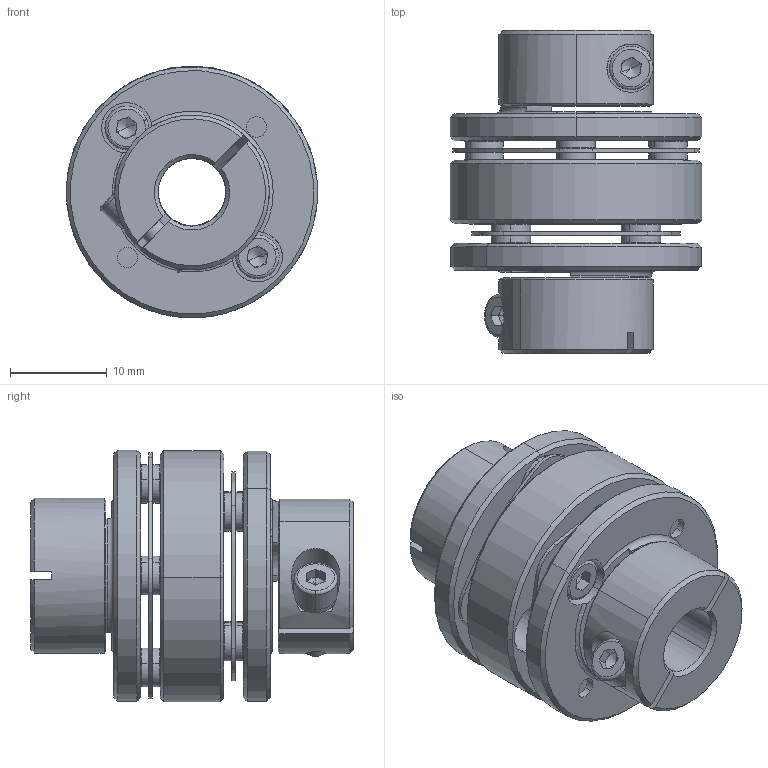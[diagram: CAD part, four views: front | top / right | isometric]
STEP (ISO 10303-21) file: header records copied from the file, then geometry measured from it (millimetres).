
FILE_DESCRIPTION (( 'STEP AP203' ), '1' );
FILE_NAME ('LE2-B-D26L35-7-7.STEP', '2021-11-01T05:48:57', ( '' ), ( '' ), 'SwSTEP 2.0', 'SolidWorks 2018', '' );
FILE_SCHEMA (( 'CONFIG_CONTROL_DESIGN' ));
Length unit declared in the file: millimetre
Products named in the file (1): LE2-B-D26L35-7-7
Bounding box: 26 x 33.4 x 26.06 mm (x, y, z)
Volume: 7645.2 mm3; surface area: 8332.8 mm2
Topology: 1 solids, 17 shells, 676 faces, 1573 edges, 945 vertices
Faces by surface type: cylinder 227, plane 220, cone 205, torus 24
Entity records: 19513 total; most frequent: DIRECTION 3652, CARTESIAN_POINT 3504, ORIENTED_EDGE 3106, EDGE_CURVE 1553, AXIS2_PLACEMENT_3D 1477, VERTEX_POINT 945, CIRCLE 800, EDGE_LOOP 784
